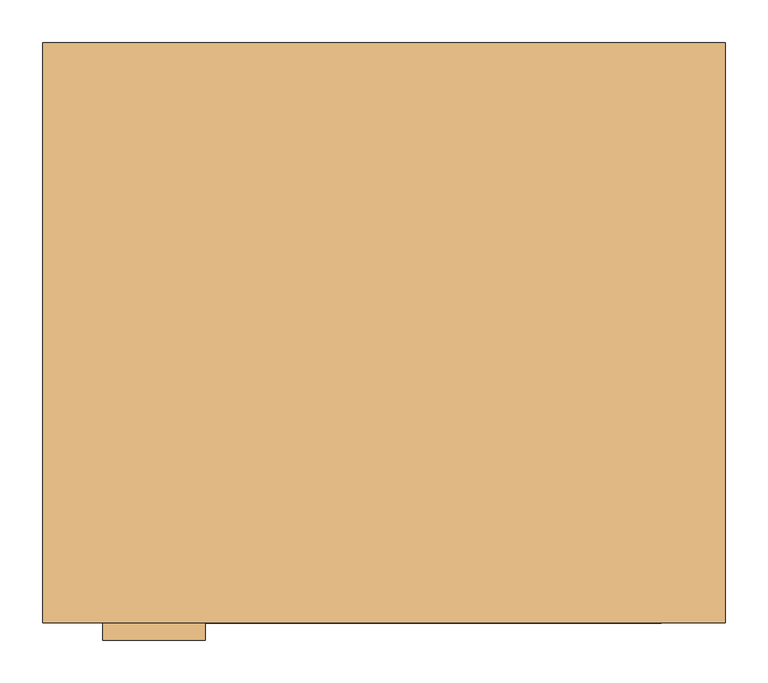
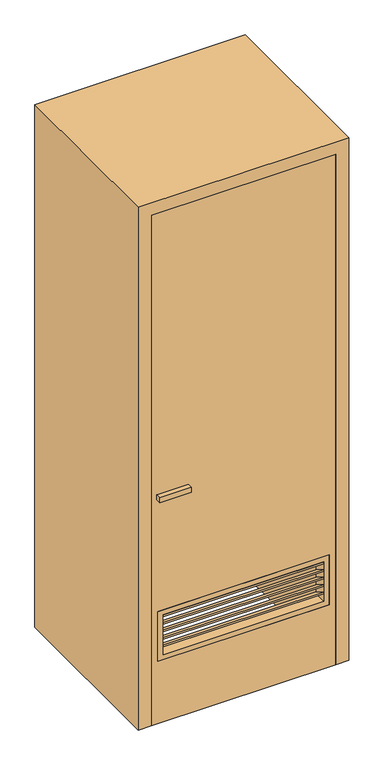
"""IFC4 building model written with IfcOpenShell, lengths in millimetres: door geometry, ARQ-PU-INT-90x210-Mad-C3 : ARQ-PU-INT-80x210-Mad."""

from ifc_helpers import new_model, si_unit, frame, origin, place, context, project, spatial, polyline, outline, extrude, source, transform, mapped, element, save


def door_2f19a653(model_context):
    return source(origin(), model_context, "Body", "SweptSolid", [
        extrude(outline(polyline([(2100.0, -400.0), (0.0, -400.0), (0.0, -350.0), (2050.0, -350.0), (2050.0, 350.0), (0.0, 350.0), (0.0, 400.0), (2100.0, 400.0), (2100.0, -400.0)])), frame((0.0, -340.0, 0.0), z_axis=(0.0, 1.0, 0.0), x_axis=(0.0, 0.0, 1.0)), (0.0, 0.0, 1.0), 680.0),
        extrude(outline(polyline([(0.0, -55.4154803), (0.0, 0.0), (610.0200372, 0.0), (610.0200372, -55.4154803), (0.0, -55.4154803)])), frame((305.0100186, -340.1127884, 421.6870193), z_axis=(0.0, 0.5144957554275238, 0.8574929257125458), x_axis=(-1.0, 0.0, 0.0)), (0.0, 0.0, 1.0), 5.042619),
        extrude(outline(polyline([(0.0, -55.4154803), (0.0, 0.0), (610.0200372, 0.0), (610.0200372, -55.4154803), (0.0, -55.4154803)])), frame((305.0100186, -340.1127884, 391.6870193), z_axis=(0.0, 0.5144957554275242, 0.8574929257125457), x_axis=(-1.0, 0.0, 0.0)), (0.0, 0.0, 1.0), 5.042619),
        extrude(outline(polyline([(0.0, -55.4154803), (0.0, 0.0), (610.0200372, 0.0), (610.0200372, -55.4154803), (0.0, -55.4154803)])), frame((305.0100186, -340.1127884, 361.6870193), z_axis=(0.0, 0.5144957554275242, 0.8574929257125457), x_axis=(-1.0, 0.0, 0.0)), (0.0, 0.0, 1.0), 5.042619),
        extrude(outline(polyline([(0.0, -55.4154803), (0.0, 0.0), (610.0200372, 0.0), (610.0200372, -55.4154803), (0.0, -55.4154803)])), frame((305.0100186, -340.1127884, 331.6870193), z_axis=(0.0, 0.5144957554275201, 0.8574929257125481), x_axis=(-1.0, 0.0, 0.0)), (0.0, 0.0, 1.0), 5.042619),
        extrude(outline(polyline([(0.0, -55.4154803), (0.0, 0.0), (610.0200372, 0.0), (610.0200372, -55.4154803), (0.0, -55.4154803)])), frame((305.0100186, -340.1127884, 301.6870193), z_axis=(0.0, 0.514495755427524, 0.8574929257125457), x_axis=(-1.0, 0.0, 0.0)), (0.0, 0.0, 1.0), 5.042619),
        extrude(outline(polyline([(450.0, 325.0100186), (450.0, -325.0100186), (250.0, -325.0100186), (250.0, 325.0100186), (450.0, 325.0100186)]), holes=[polyline([(430.0, 305.0100186), (270.0, 305.0100186), (270.0, -305.0100186), (430.0, -305.0100186), (430.0, 305.0100186)])]), frame((0.0, -340.0, 0.0), z_axis=(0.0, 1.0, 0.0), x_axis=(0.0, 0.0, 1.0)), (0.0, 0.0, 1.0), 50.0),
        extrude(outline(polyline([(-209.6774814, -360.0), (-329.6774814, -360.0), (-329.6774814, -340.0), (-209.6774814, -340.0), (-209.6774814, -360.0)])), frame((0.0, 0.0, 900.0), z_axis=(0.0, 0.0, 1.0), x_axis=(1.0, 0.0, 0.0)), (0.0, 0.0, 1.0), 20.0),
        extrude(outline(polyline([(-329.6774814, -270.0), (-209.6774814, -270.0), (-209.6774814, -290.0), (-329.6774814, -290.0), (-329.6774814, -270.0)])), frame((0.0, 0.0, 900.0), z_axis=(0.0, 0.0, 1.0), x_axis=(1.0, 0.0, 0.0)), (0.0, 0.0, 1.0), 20.0),
        extrude(outline(polyline([(2050.0, 350.0), (2050.0, -350.0), (0.0, -350.0), (0.0, 350.0), (2050.0, 350.0)]), holes=[polyline([(450.0, 325.0100186), (250.0, 325.0100186), (250.0, -325.0100186), (450.0, -325.0100186), (450.0, 325.0100186)])]), frame((0.0, -340.0, 0.0), z_axis=(0.0, 1.0, 0.0), x_axis=(0.0, 0.0, 1.0)), (0.0, 0.0, 1.0), 50.0),
    ])


if __name__ == "__main__":
    model = new_model("IFC4")
    model_context = context("Model", 3, world=origin())
    ifc_project = project(units=[si_unit("LENGTHUNIT", "METRE", prefix="MILLI")], contexts=[model_context])
    site = spatial("IfcSite", under=ifc_project)
    building = spatial("IfcBuilding", under=site)
    placement = place(None, origin())
    door_shape = door_2f19a653(model_context)
    element("IfcDoor", 1, ObjectType="ARQ-PU-INT-90x210-Mad-C3 : ARQ-PU-INT-80x210-Mad", at=placement, inside=building, context=model_context, shape_type="MappedRepresentation", body=[
        mapped(door_shape, transform((0.0, 0.0, 0.0), x_axis=(1.0, 0.0, 0.0), y_axis=(0.0, 1.0, 0.0), z_axis=(0.0, 0.0, 1.0))),
    ])
    save(model, "model.ifc")
